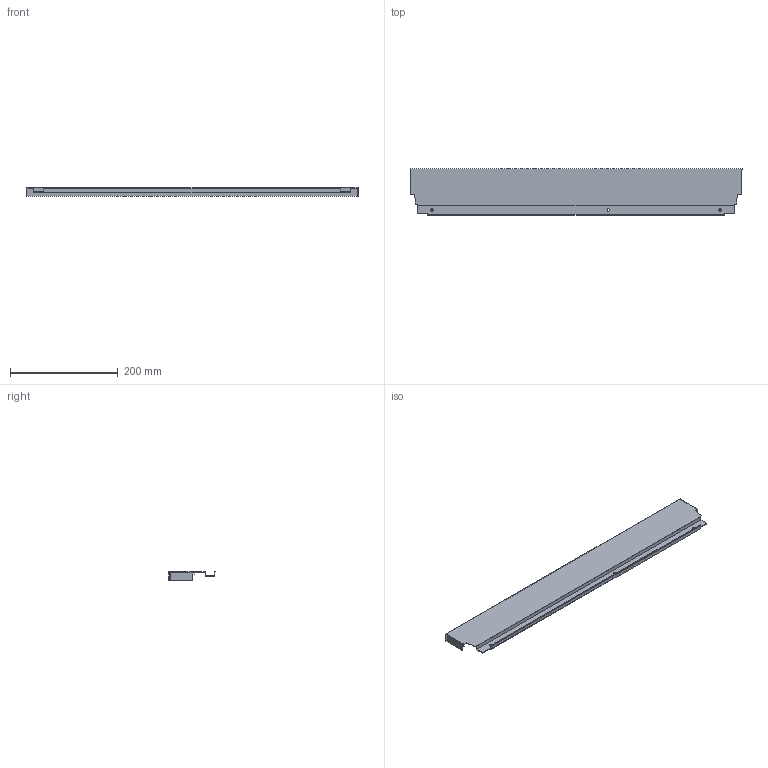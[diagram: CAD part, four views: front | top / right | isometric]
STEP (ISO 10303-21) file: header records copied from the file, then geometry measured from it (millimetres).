
FILE_DESCRIPTION (( 'STEP AP214' ), '1' );
FILE_NAME ('_DWD_XP Stahlrückwand_H86_KAB700_S18.step', '2010-07-08T12:10:22', ( 'grass' ), ( '' ), 'SwSTEP 2.0', 'SolidWorks 2010', '' );
FILE_SCHEMA (( 'AUTOMOTIVE_DESIGN' ));
Length unit declared in the file: millimetre
Products named in the file (1): _DWD_XP Stahlrückwand_H86_KAB700_S18
Bounding box: 615 x 85.79 x 16 mm (x, y, z)
Volume: 65651 mm3; surface area: 142868.3 mm2
Topology: 1 solids, 1 shells, 50 faces, 144 edges, 96 vertices
Faces by surface type: plane 44, cylinder 6
Entity records: 1666 total; most frequent: CARTESIAN_POINT 291, ORIENTED_EDGE 288, DIRECTION 258, EDGE_CURVE 144, VECTOR 132, LINE 132, VERTEX_POINT 96, AXIS2_PLACEMENT_3D 63
